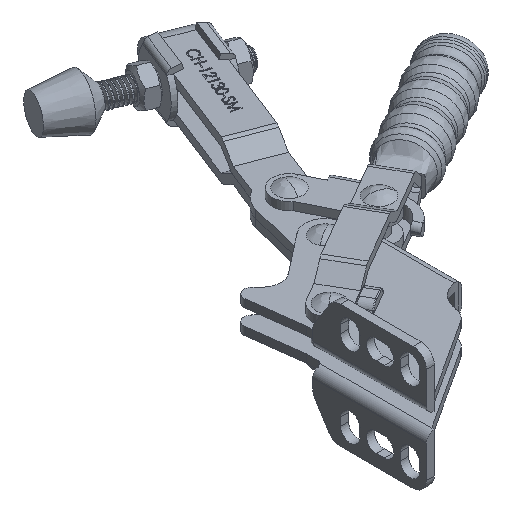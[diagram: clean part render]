
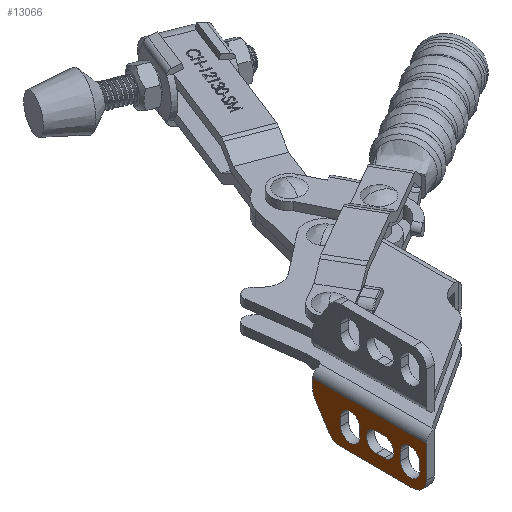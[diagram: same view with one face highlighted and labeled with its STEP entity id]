
A CAD part, isometric view. The second image highlights one B-rep face of the part: STEP entity #13066.
In plain terms, the highlighted planar face has unit normal (-1, 0, 0).
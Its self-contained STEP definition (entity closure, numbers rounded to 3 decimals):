
#889=FACE_BOUND('',#2040,.T.);
#890=FACE_BOUND('',#2041,.T.);
#891=FACE_BOUND('',#2042,.T.);
#977=PLANE('',#14071);
#1311=FACE_OUTER_BOUND('',#2039,.T.);
#2039=EDGE_LOOP('',(#8932,#8933,#8934,#8935,#8936,#8937,#8938,#8939));
#2040=EDGE_LOOP('',(#8940,#8941,#8942,#8943));
#2041=EDGE_LOOP('',(#8944,#8945,#8946,#8947));
#2042=EDGE_LOOP('',(#8948,#8949,#8950,#8951));
#2869=LINE('',#18123,#3989);
#2870=LINE('',#18125,#3990);
#2871=LINE('',#18127,#3991);
#2872=LINE('',#18131,#3992);
#2873=LINE('',#18135,#3993);
#2874=LINE('',#18141,#3994);
#2875=LINE('',#18144,#3995);
#2876=LINE('',#18148,#3996);
#2877=LINE('',#18149,#3997);
#2878=LINE('',#18151,#3998);
#2879=LINE('',#18154,#3999);
#3989=VECTOR('',#15106,1000.);
#3990=VECTOR('',#15107,1000.);
#3991=VECTOR('',#15108,1000.);
#3992=VECTOR('',#15111,1000.);
#3993=VECTOR('',#15114,1000.);
#3994=VECTOR('',#15119,1000.);
#3995=VECTOR('',#15122,1000.);
#3996=VECTOR('',#15125,1000.);
#3997=VECTOR('',#15126,1000.);
#3998=VECTOR('',#15127,1000.);
#3999=VECTOR('',#15130,1000.);
#5079=CIRCLE('',#14017,3.6);
#5081=CIRCLE('',#14020,3.6);
#5121=CIRCLE('',#14072,5.);
#5122=CIRCLE('',#14073,5.);
#5123=CIRCLE('',#14074,5.);
#5124=CIRCLE('',#14075,3.6);
#5125=CIRCLE('',#14076,3.6);
#5126=CIRCLE('',#14077,3.6);
#5127=CIRCLE('',#14078,3.6);
#5467=VERTEX_POINT('',#17971);
#5468=VERTEX_POINT('',#17973);
#5471=VERTEX_POINT('',#17980);
#5472=VERTEX_POINT('',#17982);
#5531=VERTEX_POINT('',#18121);
#5532=VERTEX_POINT('',#18122);
#5533=VERTEX_POINT('',#18124);
#5534=VERTEX_POINT('',#18126);
#5535=VERTEX_POINT('',#18128);
#5536=VERTEX_POINT('',#18130);
#5537=VERTEX_POINT('',#18132);
#5538=VERTEX_POINT('',#18134);
#5539=VERTEX_POINT('',#18137);
#5540=VERTEX_POINT('',#18138);
#5541=VERTEX_POINT('',#18140);
#5542=VERTEX_POINT('',#18142);
#5543=VERTEX_POINT('',#18145);
#5544=VERTEX_POINT('',#18146);
#5545=VERTEX_POINT('',#18150);
#5546=VERTEX_POINT('',#18152);
#6829=EDGE_CURVE('',#5468,#5467,#5079,.T.);
#6833=EDGE_CURVE('',#5472,#5471,#5081,.T.);
#6901=EDGE_CURVE('',#5531,#5532,#2869,.T.);
#6902=EDGE_CURVE('',#5531,#5533,#2870,.T.);
#6903=EDGE_CURVE('',#5533,#5534,#2871,.T.);
#6904=EDGE_CURVE('',#5534,#5535,#5121,.T.);
#6905=EDGE_CURVE('',#5535,#5536,#2872,.T.);
#6906=EDGE_CURVE('',#5536,#5537,#5122,.T.);
#6907=EDGE_CURVE('',#5537,#5538,#2873,.T.);
#6908=EDGE_CURVE('',#5538,#5532,#5123,.T.);
#6909=EDGE_CURVE('',#5539,#5540,#5124,.T.);
#6910=EDGE_CURVE('',#5540,#5541,#2874,.T.);
#6911=EDGE_CURVE('',#5541,#5542,#5125,.T.);
#6912=EDGE_CURVE('',#5542,#5539,#2875,.T.);
#6913=EDGE_CURVE('',#5543,#5544,#5126,.T.);
#6914=EDGE_CURVE('',#5544,#5472,#2876,.T.);
#6915=EDGE_CURVE('',#5471,#5543,#2877,.T.);
#6916=EDGE_CURVE('',#5467,#5545,#2878,.T.);
#6917=EDGE_CURVE('',#5545,#5546,#5127,.T.);
#6918=EDGE_CURVE('',#5546,#5468,#2879,.T.);
#8932=ORIENTED_EDGE('',*,*,#6901,.F.);
#8933=ORIENTED_EDGE('',*,*,#6902,.T.);
#8934=ORIENTED_EDGE('',*,*,#6903,.T.);
#8935=ORIENTED_EDGE('',*,*,#6904,.T.);
#8936=ORIENTED_EDGE('',*,*,#6905,.T.);
#8937=ORIENTED_EDGE('',*,*,#6906,.T.);
#8938=ORIENTED_EDGE('',*,*,#6907,.T.);
#8939=ORIENTED_EDGE('',*,*,#6908,.T.);
#8940=ORIENTED_EDGE('',*,*,#6909,.T.);
#8941=ORIENTED_EDGE('',*,*,#6910,.T.);
#8942=ORIENTED_EDGE('',*,*,#6911,.T.);
#8943=ORIENTED_EDGE('',*,*,#6912,.T.);
#8944=ORIENTED_EDGE('',*,*,#6913,.T.);
#8945=ORIENTED_EDGE('',*,*,#6914,.T.);
#8946=ORIENTED_EDGE('',*,*,#6833,.T.);
#8947=ORIENTED_EDGE('',*,*,#6915,.T.);
#8948=ORIENTED_EDGE('',*,*,#6829,.T.);
#8949=ORIENTED_EDGE('',*,*,#6916,.T.);
#8950=ORIENTED_EDGE('',*,*,#6917,.T.);
#8951=ORIENTED_EDGE('',*,*,#6918,.T.);
#13066=ADVANCED_FACE('',(#1311,#889,#890,#891),#977,.F.);
#14017=AXIS2_PLACEMENT_3D('',#17974,#14966,#14967);
#14020=AXIS2_PLACEMENT_3D('',#17983,#14974,#14975);
#14071=AXIS2_PLACEMENT_3D('',#18120,#15104,#15105);
#14072=AXIS2_PLACEMENT_3D('',#18129,#15109,#15110);
#14073=AXIS2_PLACEMENT_3D('',#18133,#15112,#15113);
#14074=AXIS2_PLACEMENT_3D('',#18136,#15115,#15116);
#14075=AXIS2_PLACEMENT_3D('',#18139,#15117,#15118);
#14076=AXIS2_PLACEMENT_3D('',#18143,#15120,#15121);
#14077=AXIS2_PLACEMENT_3D('',#18147,#15123,#15124);
#14078=AXIS2_PLACEMENT_3D('',#18153,#15128,#15129);
#14966=DIRECTION('center_axis',(1.,0.,0.));
#14967=DIRECTION('ref_axis',(0.,0.,1.));
#14974=DIRECTION('center_axis',(1.,0.,0.));
#14975=DIRECTION('ref_axis',(0.,0.,-1.));
#15104=DIRECTION('center_axis',(1.,0.,0.));
#15105=DIRECTION('ref_axis',(0.,0.,-1.));
#15106=DIRECTION('',(0.,0.,-1.));
#15107=DIRECTION('',(0.,1.,0.));
#15108=DIRECTION('',(0.,0.,-1.));
#15109=DIRECTION('center_axis',(-1.,0.,0.));
#15110=DIRECTION('ref_axis',(0.,0.,-1.));
#15111=DIRECTION('',(0.,-0.53,-0.848));
#15112=DIRECTION('center_axis',(-1.,0.,0.));
#15113=DIRECTION('ref_axis',(0.,0.,-1.));
#15114=DIRECTION('',(0.,-1.,0.));
#15115=DIRECTION('center_axis',(-1.,0.,0.));
#15116=DIRECTION('ref_axis',(0.,0.,-1.));
#15117=DIRECTION('center_axis',(1.,0.,0.));
#15118=DIRECTION('ref_axis',(0.,0.,-1.));
#15119=DIRECTION('',(0.,1.,0.));
#15120=DIRECTION('center_axis',(1.,0.,0.));
#15121=DIRECTION('ref_axis',(0.,0.,-1.));
#15122=DIRECTION('',(0.,-1.,0.));
#15123=DIRECTION('center_axis',(1.,0.,0.));
#15124=DIRECTION('ref_axis',(0.,0.,-1.));
#15125=DIRECTION('',(0.,0.,1.));
#15126=DIRECTION('',(0.,0.,-1.));
#15127=DIRECTION('',(0.,0.,-1.));
#15128=DIRECTION('center_axis',(1.,0.,0.));
#15129=DIRECTION('ref_axis',(0.,0.,1.));
#15130=DIRECTION('',(0.,0.,1.));
#17971=CARTESIAN_POINT('',(-3.,24.9,-7.5));
#17973=CARTESIAN_POINT('',(-3.,32.1,-7.5));
#17974=CARTESIAN_POINT('Origin',(-3.,28.5,-7.5));
#17980=CARTESIAN_POINT('',(-3.,2.5,-7.5));
#17982=CARTESIAN_POINT('',(-3.,9.7,-7.5));
#17983=CARTESIAN_POINT('Origin',(-3.,6.1,-7.5));
#18120=CARTESIAN_POINT('Origin',(-3.,0.,12.));
#18121=CARTESIAN_POINT('',(-3.,0.,0.));
#18122=CARTESIAN_POINT('',(-3.,0.,-12.));
#18123=CARTESIAN_POINT('',(-3.,0.,12.));
#18124=CARTESIAN_POINT('',(-3.,42.5,0.));
#18125=CARTESIAN_POINT('',(-3.,0.,0.));
#18126=CARTESIAN_POINT('',(-3.,42.5,-3.566));
#18127=CARTESIAN_POINT('',(-3.,42.5,12.));
#18128=CARTESIAN_POINT('',(-3.,41.74,-6.216));
#18129=CARTESIAN_POINT('Origin',(-3.,37.5,-3.566));
#18130=CARTESIAN_POINT('',(-3.,36.469,-14.65));
#18131=CARTESIAN_POINT('',(-3.,42.5,-5.));
#18132=CARTESIAN_POINT('',(-3.,32.229,-17.));
#18133=CARTESIAN_POINT('Origin',(-3.,32.229,-12.));
#18134=CARTESIAN_POINT('',(-3.,5.,-17.));
#18135=CARTESIAN_POINT('',(-3.,42.5,-17.));
#18136=CARTESIAN_POINT('Origin',(-3.,5.,-12.));
#18137=CARTESIAN_POINT('',(-3.,15.8,-5.4));
#18138=CARTESIAN_POINT('',(-3.,15.8,-12.6));
#18139=CARTESIAN_POINT('Origin',(-3.,15.8,-9.));
#18140=CARTESIAN_POINT('',(-3.,18.8,-12.6));
#18141=CARTESIAN_POINT('',(-3.,15.8,-12.6));
#18142=CARTESIAN_POINT('',(-3.,18.8,-5.4));
#18143=CARTESIAN_POINT('Origin',(-3.,18.8,-9.));
#18144=CARTESIAN_POINT('',(-3.,15.8,-5.4));
#18145=CARTESIAN_POINT('',(-3.,2.5,-10.5));
#18146=CARTESIAN_POINT('',(-3.,9.7,-10.5));
#18147=CARTESIAN_POINT('Origin',(-3.,6.1,-10.5));
#18148=CARTESIAN_POINT('',(-3.,9.7,-10.5));
#18149=CARTESIAN_POINT('',(-3.,2.5,-7.5));
#18150=CARTESIAN_POINT('',(-3.,24.9,-10.5));
#18151=CARTESIAN_POINT('',(-3.,24.9,-10.5));
#18152=CARTESIAN_POINT('',(-3.,32.1,-10.5));
#18153=CARTESIAN_POINT('Origin',(-3.,28.5,-10.5));
#18154=CARTESIAN_POINT('',(-3.,32.1,-7.5));
